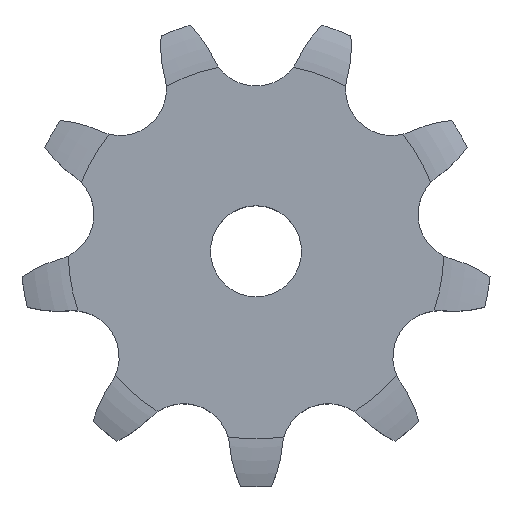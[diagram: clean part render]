
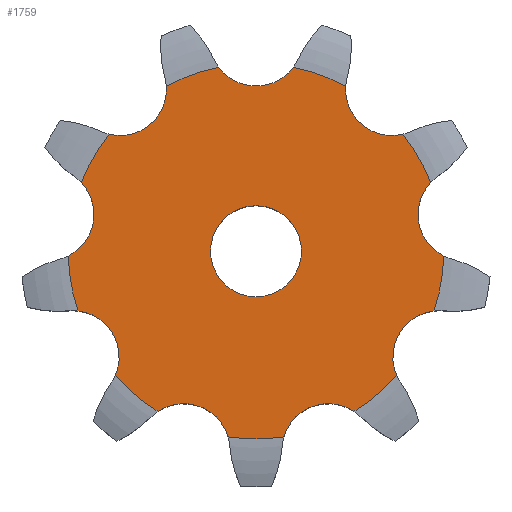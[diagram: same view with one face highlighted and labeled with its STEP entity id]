
A CAD part, top view. The second image highlights one B-rep face of the part: STEP entity #1759.
In plain terms, the highlighted planar face has unit normal (0, 0, 1).
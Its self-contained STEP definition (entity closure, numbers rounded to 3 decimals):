
#33=CARTESIAN_POINT('',(0.,0.,5.55));
#34=DIRECTION('',(0.,0.,-1.));
#35=DIRECTION('',(0.199,0.98,0.));
#36=AXIS2_PLACEMENT_3D('',#33,#34,#35);
#42=CARTESIAN_POINT('',(17.901,21.334,5.55));
#43=DIRECTION('',(0.,0.,1.));
#44=DIRECTION('',(-0.998,0.064,0.));
#45=AXIS2_PLACEMENT_3D('',#42,#43,#44);
#50=CARTESIAN_POINT('',(0.,0.,5.55));
#51=DIRECTION('',(0.,0.,-1.));
#52=DIRECTION('',(0.782,0.623,0.));
#53=AXIS2_PLACEMENT_3D('',#50,#51,#52);
#58=CARTESIAN_POINT('',(27.426,4.836,5.55));
#59=DIRECTION('',(0.,0.,1.));
#60=DIRECTION('',(-0.724,0.69,0.));
#61=AXIS2_PLACEMENT_3D('',#58,#59,#60);
#66=CARTESIAN_POINT('',(0.,0.,5.55));
#67=DIRECTION('',(0.,0.,-1.));
#68=DIRECTION('',(1.,-0.025,0.));
#69=AXIS2_PLACEMENT_3D('',#66,#67,#68);
#74=CARTESIAN_POINT('',(24.118,-13.925,5.55));
#75=DIRECTION('',(0.,0.,1.));
#76=DIRECTION('',(-0.111,0.994,0.));
#77=AXIS2_PLACEMENT_3D('',#74,#75,#76);
#82=CARTESIAN_POINT('',(0.,0.,5.55));
#83=DIRECTION('',(0.,0.,-1.));
#84=DIRECTION('',(0.75,-0.662,0.));
#85=AXIS2_PLACEMENT_3D('',#82,#83,#84);
#90=CARTESIAN_POINT('',(9.525,-26.17,5.55));
#91=DIRECTION('',(0.,0.,1.));
#92=DIRECTION('',(0.554,0.832,0.));
#93=AXIS2_PLACEMENT_3D('',#90,#91,#92);
#98=CARTESIAN_POINT('',(-9.525,-26.17,5.55));
#99=DIRECTION('',(0.,0.,1.));
#100=DIRECTION('',(0.96,0.281,0.));
#101=AXIS2_PLACEMENT_3D('',#98,#99,#100);
#106=CARTESIAN_POINT('',(0.,0.,5.55));
#107=DIRECTION('',(0.,0.,-1.));
#108=DIRECTION('',(-0.522,-0.853,0.));
#109=AXIS2_PLACEMENT_3D('',#106,#107,#108);
#114=CARTESIAN_POINT('',(-24.118,-13.925,5.55));
#115=DIRECTION('',(0.,0.,1.));
#116=DIRECTION('',(0.916,-0.401,0.));
#117=AXIS2_PLACEMENT_3D('',#114,#115,#116);
#122=CARTESIAN_POINT('',(0.,0.,5.55));
#123=DIRECTION('',(0.,0.,-1.));
#124=DIRECTION('',(-0.948,-0.318,0.));
#125=AXIS2_PLACEMENT_3D('',#122,#123,#124);
#130=CARTESIAN_POINT('',(-27.426,4.836,5.55));
#131=DIRECTION('',(0.,0.,1.));
#132=DIRECTION('',(0.444,-0.896,0.));
#133=AXIS2_PLACEMENT_3D('',#130,#131,#132);
#138=CARTESIAN_POINT('',(0.,0.,5.55));
#139=DIRECTION('',(0.,0.,-1.));
#140=DIRECTION('',(-0.931,0.366,0.));
#141=AXIS2_PLACEMENT_3D('',#138,#139,#140);
#146=CARTESIAN_POINT('',(-17.901,21.334,5.55));
#147=DIRECTION('',(0.,0.,1.));
#148=DIRECTION('',(-0.236,-0.972,0.));
#149=AXIS2_PLACEMENT_3D('',#146,#147,#148);
#154=CARTESIAN_POINT('',(0.,0.,5.55));
#155=DIRECTION('',(0.,0.,-1.));
#156=DIRECTION('',(-0.478,0.878,0.));
#157=AXIS2_PLACEMENT_3D('',#154,#155,#156);
#162=CARTESIAN_POINT('',(0.,27.849,5.55));
#163=DIRECTION('',(0.,0.,1.));
#164=DIRECTION('',(-0.805,-0.593,0.));
#165=AXIS2_PLACEMENT_3D('',#162,#163,#164);
#170=CARTESIAN_POINT('',(0.,0.,5.55));
#171=DIRECTION('',(0.,0.,1.));
#172=DIRECTION('',(1.,0.,0.));
#173=AXIS2_PLACEMENT_3D('',#170,#171,#172);
#178=CARTESIAN_POINT('',(0.,0.,5.55));
#179=DIRECTION('',(0.,0.,1.));
#180=DIRECTION('',(-1.,0.,0.));
#181=AXIS2_PLACEMENT_3D('',#178,#179,#180);
#234=CARTESIAN_POINT('',(0.,0.,5.55));
#235=DIRECTION('',(0.,0.,1.));
#236=DIRECTION('',(-0.149,-0.989,0.));
#237=AXIS2_PLACEMENT_3D('',#234,#235,#236);
#1175=CARTESIAN_POINT('',(-3.676,-24.454,5.55));
#1520=CARTESIAN_POINT('',(4.909,24.237,5.55));
#1521=CARTESIAN_POINT('',(11.818,21.722,5.55));
#1522=VERTEX_POINT('',#1520);
#1523=VERTEX_POINT('',#1521);
#1524=CARTESIAN_POINT('',(19.34,15.411,5.55));
#1525=CARTESIAN_POINT('',(23.016,9.043,5.55));
#1526=VERTEX_POINT('',#1524);
#1527=VERTEX_POINT('',#1525);
#1528=CARTESIAN_POINT('',(24.721,-0.626,5.55));
#1529=CARTESIAN_POINT('',(23.444,-7.867,5.55));
#1530=VERTEX_POINT('',#1528);
#1531=VERTEX_POINT('',#1529);
#1532=CARTESIAN_POINT('',(18.535,-16.37,5.55));
#1533=CARTESIAN_POINT('',(12.903,-21.096,5.55));
#1534=VERTEX_POINT('',#1532);
#1535=VERTEX_POINT('',#1533);
#1536=CARTESIAN_POINT('',(-12.903,-21.096,5.55));
#1537=CARTESIAN_POINT('',(-18.535,-16.37,5.55));
#1538=VERTEX_POINT('',#1536);
#1539=VERTEX_POINT('',#1537);
#1540=CARTESIAN_POINT('',(-23.444,-7.867,5.55));
#1541=CARTESIAN_POINT('',(-24.721,-0.626,5.55));
#1542=VERTEX_POINT('',#1540);
#1543=VERTEX_POINT('',#1541);
#1544=CARTESIAN_POINT('',(-23.016,9.043,5.55));
#1545=CARTESIAN_POINT('',(-19.34,15.411,5.55));
#1546=VERTEX_POINT('',#1544);
#1547=VERTEX_POINT('',#1545);
#1591=VERTEX_POINT('',#1175);
#1606=CARTESIAN_POINT('',(3.676,-24.454,5.55));
#1607=VERTEX_POINT('',#1606);
#1610=CARTESIAN_POINT('',(-11.818,21.722,5.55));
#1611=VERTEX_POINT('',#1610);
#1622=CARTESIAN_POINT('',(-4.909,24.237,5.55));
#1623=VERTEX_POINT('',#1622);
#1626=CARTESIAN_POINT('',(6.,0.,5.55));
#1627=CARTESIAN_POINT('',(-6.,0.,5.55));
#1628=VERTEX_POINT('',#1626);
#1629=VERTEX_POINT('',#1627);
#1710=CARTESIAN_POINT('',(0.,0.,5.55));
#1711=DIRECTION('',(0.,0.,1.));
#1712=DIRECTION('',(1.,0.,0.));
#1713=AXIS2_PLACEMENT_3D('',#1710,#1711,#1712);
#1714=PLANE('',#1713);
#1716=ORIENTED_EDGE('',*,*,#1715,.T.);
#1718=ORIENTED_EDGE('',*,*,#1717,.T.);
#1720=ORIENTED_EDGE('',*,*,#1719,.T.);
#1722=ORIENTED_EDGE('',*,*,#1721,.T.);
#1724=ORIENTED_EDGE('',*,*,#1723,.T.);
#1726=ORIENTED_EDGE('',*,*,#1725,.T.);
#1728=ORIENTED_EDGE('',*,*,#1727,.T.);
#1730=ORIENTED_EDGE('',*,*,#1729,.T.);
#1732=ORIENTED_EDGE('',*,*,#1731,.F.);
#1734=ORIENTED_EDGE('',*,*,#1733,.T.);
#1736=ORIENTED_EDGE('',*,*,#1735,.T.);
#1738=ORIENTED_EDGE('',*,*,#1737,.T.);
#1740=ORIENTED_EDGE('',*,*,#1739,.T.);
#1742=ORIENTED_EDGE('',*,*,#1741,.T.);
#1744=ORIENTED_EDGE('',*,*,#1743,.T.);
#1746=ORIENTED_EDGE('',*,*,#1745,.T.);
#1748=ORIENTED_EDGE('',*,*,#1747,.T.);
#1750=ORIENTED_EDGE('',*,*,#1749,.T.);
#1751=EDGE_LOOP('',(#1716,#1718,#1720,#1722,#1724,#1726,#1728,#1730,#1732,#1734,
#1736,#1738,#1740,#1742,#1744,#1746,#1748,#1750));
#1752=FACE_OUTER_BOUND('',#1751,.F.);
#1754=ORIENTED_EDGE('',*,*,#1753,.T.);
#1756=ORIENTED_EDGE('',*,*,#1755,.T.);
#1757=EDGE_LOOP('',(#1754,#1756));
#1758=FACE_BOUND('',#1757,.F.);
#1759=ADVANCED_FACE('',(#1752,#1758),#1714,.T.);
#37=CIRCLE('',#36,24.729);
#46=CIRCLE('',#45,6.095);
#54=CIRCLE('',#53,24.729);
#62=CIRCLE('',#61,6.095);
#70=CIRCLE('',#69,24.729);
#78=CIRCLE('',#77,6.095);
#86=CIRCLE('',#85,24.729);
#94=CIRCLE('',#93,6.095);
#102=CIRCLE('',#101,6.095);
#110=CIRCLE('',#109,24.729);
#118=CIRCLE('',#117,6.095);
#126=CIRCLE('',#125,24.729);
#134=CIRCLE('',#133,6.095);
#142=CIRCLE('',#141,24.729);
#150=CIRCLE('',#149,6.095);
#158=CIRCLE('',#157,24.729);
#166=CIRCLE('',#165,6.095);
#174=CIRCLE('',#173,6.);
#182=CIRCLE('',#181,6.);
#238=CIRCLE('',#237,24.729);
#1715=EDGE_CURVE('',#1522,#1523,#37,.T.);
#1717=EDGE_CURVE('',#1523,#1526,#46,.T.);
#1719=EDGE_CURVE('',#1526,#1527,#54,.T.);
#1721=EDGE_CURVE('',#1527,#1530,#62,.T.);
#1723=EDGE_CURVE('',#1530,#1531,#70,.T.);
#1725=EDGE_CURVE('',#1531,#1534,#78,.T.);
#1727=EDGE_CURVE('',#1534,#1535,#86,.T.);
#1729=EDGE_CURVE('',#1535,#1607,#94,.T.);
#1731=EDGE_CURVE('',#1591,#1607,#238,.T.);
#1733=EDGE_CURVE('',#1591,#1538,#102,.T.);
#1735=EDGE_CURVE('',#1538,#1539,#110,.T.);
#1737=EDGE_CURVE('',#1539,#1542,#118,.T.);
#1739=EDGE_CURVE('',#1542,#1543,#126,.T.);
#1741=EDGE_CURVE('',#1543,#1546,#134,.T.);
#1743=EDGE_CURVE('',#1546,#1547,#142,.T.);
#1745=EDGE_CURVE('',#1547,#1611,#150,.T.);
#1747=EDGE_CURVE('',#1611,#1623,#158,.T.);
#1749=EDGE_CURVE('',#1623,#1522,#166,.T.);
#1753=EDGE_CURVE('',#1628,#1629,#174,.T.);
#1755=EDGE_CURVE('',#1629,#1628,#182,.T.);
